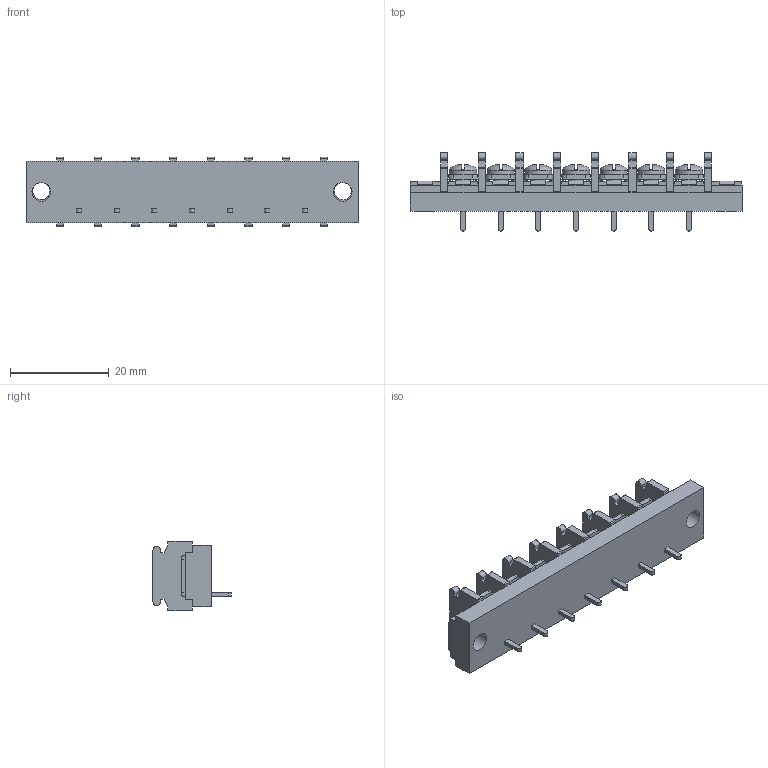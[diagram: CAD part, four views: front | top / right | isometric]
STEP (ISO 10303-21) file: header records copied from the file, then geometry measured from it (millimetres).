
FILE_DESCRIPTION(/* description */ ('Alibre Inc.'),/* implementation_level */ '2;1');
FILE_NAME(/* name */ 'export0',/* time_stamp */ '2015-10-23T19:37:29+09:00',/* author */ (''),/* organization */ (''),/* preprocessor_version */ 'ST-DEVELOPER v14',/* originating_system */ 'Alibre',/* authorisation */ '');
FILE_SCHEMA (('CONFIG_CONTROL_DESIGN'));
Length unit declared in the file: centimetre
Products named in the file (1): ID_1
Bounding box: 67.16 x 15.8 x 14 mm (x, y, z)
Volume: 5927.1 mm3; surface area: 5632.9 mm2
Topology: 1 solids, 17 shells, 1250 faces, 3399 edges, 2233 vertices
Faces by surface type: plane 964, cylinder 126, bspline 104, cone 28, torus 14, sphere 14
Full cylindrical faces by diameter (mm): 3 x7, 3.5 x2, 3.8 x2, 5.5 x7
Entity records: 37438 total; most frequent: CARTESIAN_POINT 8210, ORIENTED_EDGE 6670, DIRECTION 4631, EDGE_CURVE 3335, VECTOR 2444, LINE 2444, VERTEX_POINT 2201, AXIS2_PLACEMENT_3D 1533
